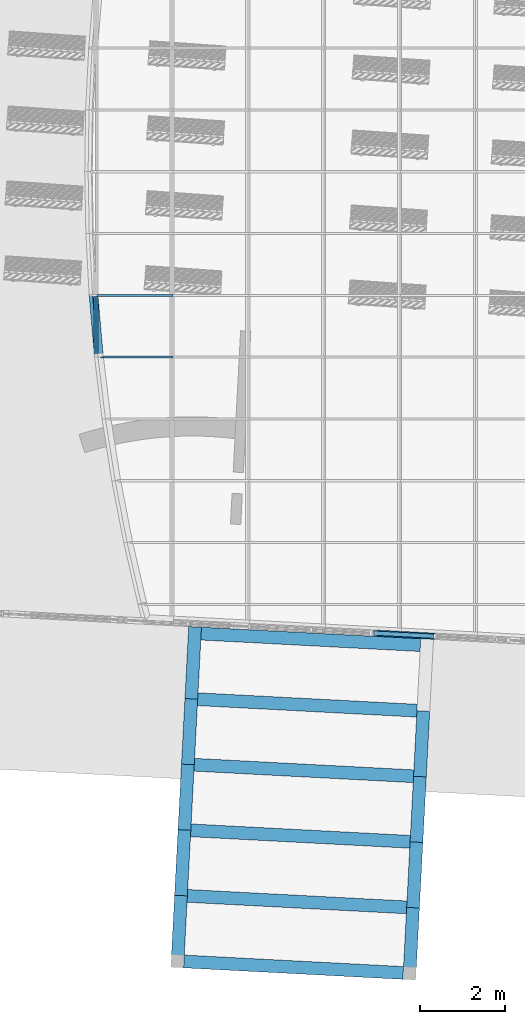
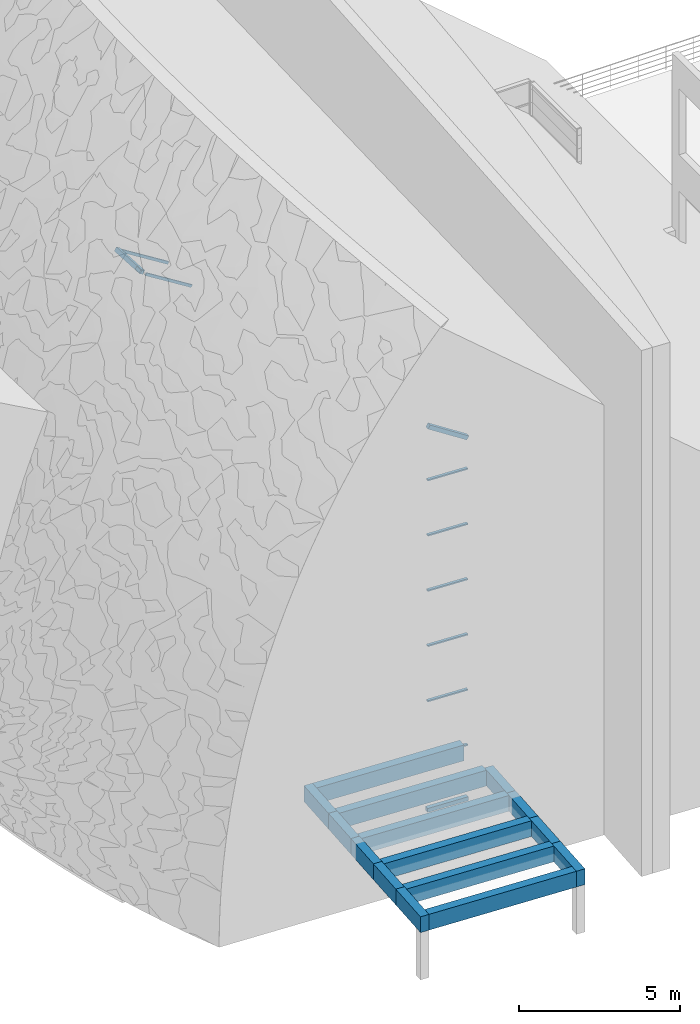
# One storey, part 3 of 82: 27 members, 2 elements without a shape of their own.
"""IFC2X3 building model written with IfcOpenShell, lengths in millimetres."""

from ifc_helpers import new_model, entity, si_unit, converted_unit, derived_unit, direction, frame, frame_2d, origin, origin_2d_with_axis, place, context, subcontext, project, spatial, polyline, rectangle, extrude, clip, halfspace, bounded_halfspace, source, transform, mapped, material, type_object, type_shapes, element, aggregate, save


model = new_model("IFC2X3")

# Units and contexts
model_context = context("Model", 3, precision=0.01, world=origin(), true_north=direction((6.12303176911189e-17, 1.0)))
body_context = subcontext(model_context, "Body", "Model", "MODEL_VIEW")
ifc_project = project(units=[si_unit("LENGTHUNIT", "METRE", prefix="MILLI"), si_unit("AREAUNIT", "SQUARE_METRE"), si_unit("VOLUMEUNIT", "CUBIC_METRE"), converted_unit("PLANEANGLEUNIT", "DEGREE", entity("IfcRatioMeasure", 0.0174532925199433), si_unit("PLANEANGLEUNIT", "RADIAN"), dimensions=[0, 0, 0, 0, 0, 0, 0]), si_unit("MASSUNIT", "GRAM", prefix="KILO"), derived_unit("MASSDENSITYUNIT", [(si_unit("MASSUNIT", "GRAM", prefix="KILO"), 1), (si_unit("LENGTHUNIT", "METRE"), -3)]), si_unit("TIMEUNIT", "SECOND"), si_unit("FREQUENCYUNIT", "HERTZ"), si_unit("THERMODYNAMICTEMPERATUREUNIT", "DEGREE_CELSIUS"), derived_unit("THERMALTRANSMITTANCEUNIT", [(si_unit("MASSUNIT", "GRAM", prefix="KILO"), 1), (si_unit("THERMODYNAMICTEMPERATUREUNIT", "KELVIN"), -1), (si_unit("TIMEUNIT", "SECOND"), -3)]), derived_unit("VOLUMETRICFLOWRATEUNIT", [(si_unit("LENGTHUNIT", "METRE"), 3), (si_unit("TIMEUNIT", "SECOND"), -1)]), si_unit("ELECTRICCURRENTUNIT", "AMPERE"), si_unit("ELECTRICVOLTAGEUNIT", "VOLT"), si_unit("POWERUNIT", "WATT"), si_unit("FORCEUNIT", "NEWTON", prefix="KILO"), si_unit("ILLUMINANCEUNIT", "LUX"), si_unit("LUMINOUSFLUXUNIT", "LUMEN"), si_unit("LUMINOUSINTENSITYUNIT", "CANDELA"), derived_unit("USERDEFINED", [(si_unit("MASSUNIT", "GRAM", prefix="KILO"), -1), (si_unit("LENGTHUNIT", "METRE"), -2), (si_unit("TIMEUNIT", "SECOND"), 3), (si_unit("LUMINOUSFLUXUNIT", "LUMEN"), 1)]), derived_unit("LINEARVELOCITYUNIT", [(si_unit("LENGTHUNIT", "METRE"), 1), (si_unit("TIMEUNIT", "SECOND"), -1)]), si_unit("PRESSUREUNIT", "PASCAL"), derived_unit("USERDEFINED", [(si_unit("LENGTHUNIT", "METRE"), -2), (si_unit("MASSUNIT", "GRAM", prefix="KILO"), 1), (si_unit("TIMEUNIT", "SECOND"), -2)])], contexts=[model_context])

# Site, building, storey
site_placement = place(None, origin())
site = spatial("IfcSite", under=ifc_project, at=site_placement, Name="表面", CompositionType="ELEMENT")
building_placement = place(site_placement, origin())
building = spatial("IfcBuilding", under=site, at=building_placement, CompositionType="ELEMENT")
storey_placement = place(building_placement, origin())
storey = spatial("IfcBuildingStorey", under=building, at=storey_placement, Name="1F", CompositionType="ELEMENT", Elevation=0.0)

# Curtain wall, members
curtain_wall_type_1 = type_object("IfcCurtainWallType", Name="幕墙系统:1450 x 2100mm", PredefinedType="NOTDEFINED")
curtain_wall_placement = place(storey_placement, origin())
curtain_wall = element("IfcCurtainWall", 1, at=curtain_wall_placement, inside=storey, type_object=curtain_wall_type_1, Name="幕墙系统:1450 x 2100mm", ObjectType="幕墙系统:1450 x 2100mm")
ifc_material_1 = material(Name="金属 - 铝")
member_type_1 = type_object("IfcMemberType", Name="50 x 100mm", PredefinedType="MEMBER")
shared_shape_1 = source(origin(), body_context, "Body", "SweptSolid", [
    extrude(rectangle(XDim=100.0, YDim=50.0, at=origin_2d_with_axis()), frame((0.0, 0.0, -1400.0), z_axis=(0.0, 0.0, 1.0), x_axis=(0.0, -1.0, 0.0)), (0.0, 0.0, 1.0), 1400.0),
])
type_shapes(member_type_1, [shared_shape_1])
member_1_placement = place(storey_placement, frame((-22681.6046437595, -28634.4332491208, 2100.0), z_axis=(0.998629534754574, -0.0523359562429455, 0.0), x_axis=(0.0, 0.0, 1.0)))
member_1 = element("IfcMember", 2, at=member_1_placement, type_object=member_type_1, material=ifc_material_1, Name="矩形竖梃:50 x 100mm", ObjectType="50 x 100mm", context=body_context, shape_type="MappedRepresentation", body=[
    mapped(shared_shape_1, transform((0.0, 0.0, 0.0), scale=1.0)),
])
placement_1 = place(building_placement, frame((0.0, 0.0, 3000.0)))
member_2_placement = place(placement_1, frame((-22681.6046437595, -28634.4332491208, 1200.0), z_axis=(0.998629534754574, -0.0523359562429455, 0.0), x_axis=(0.0, 0.0, 1.0)))
member_2 = element("IfcMember", 3, at=member_2_placement, type_object=member_type_1, material=ifc_material_1, Name="矩形竖梃:50 x 100mm", ObjectType="50 x 100mm", context=body_context, shape_type="MappedRepresentation", body=[
    mapped(shared_shape_1, transform((0.0, 0.0, 0.0), scale=1.0)),
])
placement_2 = place(building_placement, frame((0.0, 0.0, 6000.0)))
member_3_placement = place(placement_2, frame((-22681.6046437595, -28634.4332491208, 300.0), z_axis=(0.998629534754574, -0.0523359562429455, 0.0), x_axis=(0.0, 0.0, 1.0)))
member_3 = element("IfcMember", 4, at=member_3_placement, type_object=member_type_1, material=ifc_material_1, Name="矩形竖梃:50 x 100mm", ObjectType="50 x 100mm", context=body_context, shape_type="MappedRepresentation", body=[
    mapped(shared_shape_1, transform((0.0, 0.0, 0.0), scale=1.0)),
])
member_4_placement = place(placement_2, frame((-22681.6046437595, -28634.4332491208, 2400.0), z_axis=(0.998629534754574, -0.0523359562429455, 0.0), x_axis=(0.0, 0.0, 1.0)))
member_4 = element("IfcMember", 5, at=member_4_placement, type_object=member_type_1, material=ifc_material_1, Name="矩形竖梃:50 x 100mm", ObjectType="50 x 100mm", context=body_context, shape_type="MappedRepresentation", body=[
    mapped(shared_shape_1, transform((0.0, 0.0, 0.0), scale=1.0)),
])
placement_3 = place(building_placement, frame((0.0, 0.0, 9000.0)))
member_5_placement = place(placement_3, frame((-22681.6046437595, -28634.4332491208, 1500.0), z_axis=(0.998629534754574, -0.0523359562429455, 0.0), x_axis=(0.0, 0.0, 1.0)))
member_5 = element("IfcMember", 6, at=member_5_placement, type_object=member_type_1, material=ifc_material_1, Name="矩形竖梃:50 x 100mm", ObjectType="50 x 100mm", context=body_context, shape_type="MappedRepresentation", body=[
    mapped(shared_shape_1, transform((0.0, 0.0, 0.0), scale=1.0)),
])
member_6_placement = place(placement_3, frame((-22681.6046437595, -28634.4332491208, 3600.0), z_axis=(0.998629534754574, -0.0523359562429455, 0.0), x_axis=(0.0, 0.0, 1.0)))
member_6 = element("IfcMember", 7, at=member_6_placement, type_object=member_type_1, material=ifc_material_1, Name="矩形竖梃:50 x 100mm", ObjectType="50 x 100mm", context=body_context, shape_type="MappedRepresentation", body=[
    mapped(shared_shape_1, transform((0.0, 0.0, 0.0), scale=1.0)),
])
member_type_2 = type_object("IfcMemberType", Name="50 x 100mm", PredefinedType="MEMBER")
shared_shape_2 = source(origin(), body_context, "Body", "SweptSolid", [
    extrude(rectangle(XDim=100.0, YDim=50.0, at=origin_2d_with_axis()), frame((0.0, 0.0, -2100.0), z_axis=(0.0, 0.0, 1.0), x_axis=(0.0, -1.0, 0.0)), (0.0, 0.0, 1.0), 2100.0),
])
type_shapes(member_type_2, [shared_shape_2])
member_7_placement = place(placement_3, frame((-30604.5056245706, -20638.9031535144, 9820.01452635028), z_axis=(-0.848048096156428, 0.0, 0.529919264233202), x_axis=(0.0, -1.0, 0.0)))
member_7 = element("IfcMember", 8, at=member_7_placement, type_object=member_type_2, material=ifc_material_1, Name="矩形竖梃:50 x 100mm", ObjectType="50 x 100mm", context=body_context, shape_type="MappedRepresentation", body=[
    mapped(shared_shape_2, transform((0.0, 0.0, 0.0), scale=1.0)),
])
ifc_material_2 = material(Name="木质 - 木材")
member_type_3 = type_object("IfcMemberType", Name="200 x 150mm", PredefinedType="MEMBER")
shared_shape_3 = source(origin(), body_context, "Body", "SweptSolid", [
    extrude(rectangle(XDim=150.0, YDim=150.0, at=origin_2d_with_axis()), frame((-75.0, 0.0, -1425.0), z_axis=(0.0, 0.0, 1.0), x_axis=(0.0, -1.0, 0.0)), (0.0, 0.0, 1.0), 1425.0),
])
type_shapes(member_type_3, [shared_shape_3])
member_8_placement = place(storey_placement, frame((-24104.6517307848, -28559.8545114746, 0.0), z_axis=(-0.998629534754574, 0.0523359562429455, 0.0), x_axis=(0.0, 0.0, -1.0)))
member_8 = element("IfcMember", 9, at=member_8_placement, type_object=member_type_3, material=ifc_material_2, Name="矩形竖梃:200 x 150mm", ObjectType="200 x 150mm", context=body_context, shape_type="MappedRepresentation", body=[
    mapped(shared_shape_3, transform((0.0, 0.0, 0.0), scale=1.0)),
])
member_type_4 = type_object("IfcMemberType", Name="200 x 150mm", PredefinedType="MEMBER")
shared_shape_4 = source(origin(), body_context, "Body", "Clipping", [
    clip(clip(extrude(rectangle(XDim=150.0, YDim=150.0, at=frame_2d((7.105427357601e-15, 0.0), x_axis=(1.0, 0.0))), frame((-75.0, 0.0, -1380.2874593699), z_axis=(0.0, 0.0, 1.0), x_axis=(0.0, -1.0, 0.0)), (0.0, 0.0, 1.0), 1380.2874593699), halfspace(frame((0.0, -304.8, -1380.2874593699), z_axis=(-0.0100534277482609, 0.0, -0.999949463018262), x_axis=(-0.999949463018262, 0.0, 0.0100534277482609)), False)), halfspace(frame((0.0, -304.8, 0.0), z_axis=(-0.0195393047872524, 0.0, 0.999809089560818), x_axis=(-0.999809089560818, 0.0, -0.0195393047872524)), False)),
])
type_shapes(member_type_4, [shared_shape_4])
member_9_placement = place(placement_3, frame((-30722.9634590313, -20638.9031535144, 9894.0351965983), z_axis=(-0.0858211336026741, 0.99486626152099, 0.0536269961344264), x_axis=(-0.843694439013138, -0.101198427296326, 0.527198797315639)))
member_9 = element("IfcMember", 10, at=member_9_placement, type_object=member_type_4, material=ifc_material_2, Name="矩形竖梃:200 x 150mm", ObjectType="200 x 150mm", context=body_context, shape_type="MappedRepresentation", body=[
    mapped(shared_shape_4, transform((0.0, 0.0, 0.0), scale=1.0)),
])
member_type_5 = type_object("IfcMemberType", Name="50 x 100mm", PredefinedType="MEMBER")
shared_shape_5 = source(origin(), body_context, "Body", "SweptSolid", [
    extrude(rectangle(XDim=100.0, YDim=50.0, at=origin_2d_with_axis()), frame((0.0, 0.0, -1348.20142452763), z_axis=(0.0, 0.0, 1.0), x_axis=(0.0, -1.0, 0.0)), (0.0, 0.0, 1.0), 1348.20142452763),
])
type_shapes(member_type_5, [shared_shape_5])
member_10_placement = place(placement_3, frame((-30604.5056245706, -20663.9031535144, 9820.01452635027), z_axis=(0.0, 1.0, 0.0), x_axis=(-0.848048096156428, 0.0, 0.529919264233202)))
member_10 = element("IfcMember", 11, at=member_10_placement, type_object=member_type_5, material=ifc_material_1, Name="矩形竖梃:50 x 100mm", ObjectType="50 x 100mm", context=body_context, shape_type="MappedRepresentation", body=[
    mapped(shared_shape_5, transform((0.0, 0.0, 0.0), scale=1.0)),
])
member_type_6 = type_object("IfcMemberType", Name="50 x 100mm", PredefinedType="MEMBER")
shared_shape_6 = source(origin(), body_context, "Body", "Clipping", [
    clip(clip(extrude(rectangle(XDim=100.0, YDim=50.0, at=origin_2d_with_axis()), frame((0.0, 0.0, -2090.62440953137), z_axis=(0.0, 0.0, 1.0), x_axis=(0.0, -1.0, 0.0)), (0.0, 0.0, 1.0), 1942.56278077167), bounded_halfspace(frame((-19.7610123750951, 75.0, -148.701205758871), z_axis=(0.142269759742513, 0.0, 0.989827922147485), x_axis=(0.989827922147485, 0.0, -0.142269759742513)), False, frame((0.0, 0.0, -2090.62440953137), z_axis=(0.0, 0.0, 1.0), x_axis=(0.0, -1.0, 0.0)), polyline([(-50.0, 25.0), (-50.0, -19.7610123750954), (50.0, -19.7610123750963), (50.0, 25.0), (-50.0, 25.0)]))), bounded_halfspace(frame((-94.9756642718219, 75.0, -139.518981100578), z_axis=(0.12118059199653, 0.0, 0.992630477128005), x_axis=(0.992630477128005, 0.0, -0.12118059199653)), False, frame((0.0, 0.0, -2090.62440953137), z_axis=(0.0, 0.0, 1.0), x_axis=(0.0, -1.0, 0.0)), polyline([(-50.0, -19.7610123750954), (-50.0, -25.0), (50.0, -25.0), (50.0, -19.7610123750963), (-50.0, -19.7610123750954)]))),
])
type_shapes(member_type_6, [shared_shape_6])
member_11_placement = place(placement_3, frame((-30596.5546729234, -22088.9031535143, 9815.04622034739), z_axis=(-0.848048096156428, 0.0, 0.529919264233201), x_axis=(0.0, -1.0, 0.0)))
member_11 = element("IfcMember", 12, at=member_11_placement, type_object=member_type_6, material=ifc_material_1, Name="矩形竖梃:50 x 100mm", ObjectType="50 x 100mm", context=body_context, shape_type="MappedRepresentation", body=[
    mapped(shared_shape_6, transform((0.0, 0.0, 0.0), scale=1.0)),
])
member_type_7 = type_object("IfcMemberType", Name="200 x 150mm", PredefinedType="MEMBER")
shared_shape_7 = source(origin(), body_context, "Body", "SweptSolid", [
    extrude(rectangle(XDim=150.0, YDim=150.0, at=frame_2d((2.8421709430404e-14, -8.5265128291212e-14), x_axis=(1.0, 0.0))), frame((-75.0, 0.0, -1598.73277762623), z_axis=(0.0, 0.0, 1.0), x_axis=(0.0, -1.0, 0.0)), (0.0, 0.0, 1.0), 1598.73277762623),
])
type_shapes(member_type_7, [shared_shape_7])
member_12_placement = place(placement_3, frame((-22656.6389053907, -28635.7416480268, 4853.6362004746), z_axis=(0.847211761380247, -0.0444004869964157, -0.529396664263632), x_axis=(0.528671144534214, -0.0277064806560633, 0.848374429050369)))
member_12 = element("IfcMember", 13, at=member_12_placement, type_object=member_type_7, material=ifc_material_2, Name="矩形竖梃:200 x 150mm", ObjectType="200 x 150mm", context=body_context, shape_type="MappedRepresentation", body=[
    mapped(shared_shape_7, transform((0.0, 0.0, 0.0), scale=1.0)),
])
aggregate(curtain_wall, [member_9, member_10, member_11, member_7, member_8, member_12, member_1, member_2, member_3, member_4, member_5, member_6])

# Roof, members
curtain_wall_type_2 = type_object("IfcCurtainWallType", Name="玻璃斜窗:玻璃斜窗", PredefinedType="NOTDEFINED")
roof_placement = place(storey_placement, origin())
roof = element("IfcRoof", 14, at=roof_placement, inside=storey, type_object=curtain_wall_type_2, Name="玻璃斜窗:玻璃斜窗", ObjectType="玻璃斜窗:玻璃斜窗:338", ShapeType="NOTDEFINED")
ifc_material_3 = material(Name="白色涂料")
member_type_8 = type_object("IfcMemberType", Name="300x600", PredefinedType="MEMBER")
shared_shape_8 = source(origin(), body_context, "Body", "SweptSolid", [
    extrude(rectangle(XDim=600.0, YDim=300.0, at=origin_2d_with_axis()), frame((-150.0, 0.0, -5150.0), z_axis=(0.0, 0.0, 1.0), x_axis=(0.0, -1.0, 0.0)), (0.0, 0.0, 1.0), 5150.00000000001),
])
type_shapes(member_type_8, [shared_shape_8])
member_13_placement = place(storey_placement, frame((-28128.0608048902, -28424.0995027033, 2100.0), z_axis=(-0.998629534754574, 0.0523359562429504, 0.0), x_axis=(0.0523359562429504, 0.998629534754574, 0.0)))
member_13 = element("IfcMember", 15, at=member_13_placement, type_object=member_type_8, material=ifc_material_3, Name="矩形竖梃:300x600", ObjectType="300x600", context=body_context, shape_type="MappedRepresentation", body=[
    mapped(shared_shape_8, transform((0.0, 0.0, 0.0), scale=1.0)),
])
member_14_placement = place(storey_placement, frame((-23403.8063508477, -36682.6659553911, 2100.0), z_axis=(0.998629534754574, -0.0523359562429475, 0.0), x_axis=(-0.0523359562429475, -0.998629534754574, 0.0)))
member_14 = element("IfcMember", 16, at=member_14_placement, type_object=member_type_8, material=ifc_material_3, Name="矩形竖梃:300x600", ObjectType="300x600", context=body_context, shape_type="MappedRepresentation", body=[
    mapped(shared_shape_8, transform((0.0, 0.0, 0.0), scale=1.0)),
])
member_type_9 = type_object("IfcMemberType", Name="300x600", PredefinedType="MEMBER")
shared_shape_9 = source(origin(), body_context, "Body", "SweptSolid", [
    extrude(rectangle(XDim=600.0, YDim=300.0, at=origin_2d_with_axis()), frame((-150.0, 0.0, -1690.0), z_axis=(0.0, 0.0, 1.0), x_axis=(0.0, -1.0, 0.0)), (0.0, 0.0, 1.0), 1690.0),
])
type_shapes(member_type_9, [shared_shape_9])
member_15_placement = place(storey_placement, frame((-28846.3373152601, -36397.434993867, 2100.0), z_axis=(-0.0523359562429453, -0.998629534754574, 0.0), x_axis=(-0.998629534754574, 0.0523359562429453, 0.0)))
member_15 = element("IfcMember", 17, at=member_15_placement, type_object=member_type_9, material=ifc_material_3, Name="矩形竖梃:300x600", ObjectType="300x600", context=body_context, shape_type="MappedRepresentation", body=[
    mapped(shared_shape_9, transform((0.0, 0.0, 0.0), scale=1.0)),
])
member_type_10 = type_object("IfcMemberType", Name="300x600", PredefinedType="MEMBER")
shared_shape_10 = source(origin(), body_context, "Body", "SweptSolid", [
    extrude(rectangle(XDim=600.0, YDim=300.0, at=origin_2d_with_axis()), frame((-150.0, 0.0, -1540.0), z_axis=(0.0, 0.0, 1.0), x_axis=(0.0, -1.0, 0.0)), (0.0, 0.0, 1.0), 1540.0),
])
type_shapes(member_type_10, [shared_shape_10])
member_16_placement = place(storey_placement, frame((-28757.8895492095, -34709.7510801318, 2100.0), z_axis=(-0.0523359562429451, -0.998629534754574, 0.0), x_axis=(-0.998629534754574, 0.0523359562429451, 0.0)))
member_16 = element("IfcMember", 18, at=member_16_placement, type_object=member_type_10, material=ifc_material_3, Name="矩形竖梃:300x600", ObjectType="300x600", context=body_context, shape_type="MappedRepresentation", body=[
    mapped(shared_shape_10, transform((0.0, 0.0, 0.0), scale=1.0)),
])
member_17_placement = place(storey_placement, frame((-28677.2921765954, -33171.8615966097, 2100.0), z_axis=(-0.0523359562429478, -0.998629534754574, 0.0), x_axis=(-0.998629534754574, 0.0523359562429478, 0.0)))
member_17 = element("IfcMember", 19, at=member_17_placement, type_object=member_type_10, material=ifc_material_3, Name="矩形竖梃:300x600", ObjectType="300x600", context=body_context, shape_type="MappedRepresentation", body=[
    mapped(shared_shape_10, transform((0.0, 0.0, 0.0), scale=1.0)),
])
member_18_placement = place(storey_placement, frame((-28596.6948039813, -31633.9721130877, 2100.0), z_axis=(-0.0523359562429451, -0.998629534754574, 0.0), x_axis=(-0.998629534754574, 0.0523359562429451, 0.0)))
member_18 = element("IfcMember", 20, at=member_18_placement, type_object=member_type_10, material=ifc_material_3, Name="矩形竖梃:300x600", ObjectType="300x600", context=body_context, shape_type="MappedRepresentation", body=[
    mapped(shared_shape_10, transform((0.0, 0.0, 0.0), scale=1.0)),
])
member_19_placement = place(storey_placement, frame((-22935.1723517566, -33472.7933450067, 2100.0), z_axis=(0.0523359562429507, 0.998629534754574, 0.0), x_axis=(0.998629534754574, -0.0523359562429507, 0.0)))
member_19 = element("IfcMember", 21, at=member_19_placement, type_object=member_type_10, material=ifc_material_3, Name="矩形竖梃:300x600", ObjectType="300x600", context=body_context, shape_type="MappedRepresentation", body=[
    mapped(shared_shape_10, transform((0.0, 0.0, 0.0), scale=1.0)),
])
member_20_placement = place(storey_placement, frame((-22854.5749791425, -31934.9038614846, 2100.0), z_axis=(0.0523359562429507, 0.998629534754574, 0.0), x_axis=(0.998629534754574, -0.0523359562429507, 0.0)))
member_20 = element("IfcMember", 22, at=member_20_placement, type_object=member_type_10, material=ifc_material_3, Name="矩形竖梃:300x600", ObjectType="300x600", context=body_context, shape_type="MappedRepresentation", body=[
    mapped(shared_shape_10, transform((0.0, 0.0, 0.0), scale=1.0)),
])
member_21_placement = place(storey_placement, frame((-22773.9776065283, -30397.0143779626, 2100.0), z_axis=(0.0523359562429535, 0.998629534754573, 0.0), x_axis=(0.998629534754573, -0.0523359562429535, 0.0)))
member_21 = element("IfcMember", 23, at=member_21_placement, type_object=member_type_10, material=ifc_material_3, Name="矩形竖梃:300x600", ObjectType="300x600", context=body_context, shape_type="MappedRepresentation", body=[
    mapped(shared_shape_10, transform((0.0, 0.0, 0.0), scale=1.0)),
])
member_type_11 = type_object("IfcMemberType", Name="300x600", PredefinedType="MEMBER")
shared_shape_11 = source(origin(), body_context, "Body", "SweptSolid", [
    extrude(rectangle(XDim=600.0, YDim=300.0, at=origin_2d_with_axis()), frame((-150.0, 0.0, -1690.0), z_axis=(0.0, 0.0, 1.0), x_axis=(0.0, -1.0, 0.0)), (0.0, 0.0, 1.0), 1690.0),
])
type_shapes(member_type_11, [shared_shape_11])
member_22_placement = place(storey_placement, frame((-28516.0974313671, -30096.0826295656, 2100.0), z_axis=(-0.0523359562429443, -0.998629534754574, 0.0), x_axis=(-0.998629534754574, 0.0523359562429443, 0.0)))
member_22 = element("IfcMember", 24, at=member_22_placement, type_object=member_type_11, material=ifc_material_3, Name="矩形竖梃:300x600", ObjectType="300x600", context=body_context, shape_type="MappedRepresentation", body=[
    mapped(shared_shape_11, transform((0.0, 0.0, 0.0), scale=1.0)),
])
member_23_placement = place(storey_placement, frame((-23015.7697243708, -35010.6828285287, 2100.0), z_axis=(0.0523359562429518, 0.998629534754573, 0.0), x_axis=(0.998629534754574, -0.0523359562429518, 0.0)))
member_23 = element("IfcMember", 25, at=member_23_placement, type_object=member_type_11, material=ifc_material_3, Name="矩形竖梃:300x600", ObjectType="300x600", context=body_context, shape_type="MappedRepresentation", body=[
    mapped(shared_shape_11, transform((0.0, 0.0, 0.0), scale=1.0)),
])
member_type_12 = type_object("IfcMemberType", Name="300x600", PredefinedType="MEMBER")
shared_shape_12 = source(origin(), body_context, "Body", "SweptSolid", [
    extrude(rectangle(XDim=600.0, YDim=300.0, at=origin_2d_with_axis()), frame((0.0, 0.0, -5150.0), z_axis=(0.0, 0.0, 1.0), x_axis=(0.0, -1.0, 0.0)), (0.0, 0.0, 1.0), 5149.99999999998),
])
type_shapes(member_type_12, [shared_shape_12])
member_24_placement = place(storey_placement, frame((-28458.3006887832, -34725.4518670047, 2100.0), z_axis=(-0.998629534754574, 0.0523359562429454, 0.0), x_axis=(0.0523359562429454, 0.998629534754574, 0.0)))
member_24 = element("IfcMember", 26, at=member_24_placement, type_object=member_type_12, material=ifc_material_3, Name="矩形竖梃:300x600", ObjectType="300x600", context=body_context, shape_type="MappedRepresentation", body=[
    mapped(shared_shape_12, transform((0.0, 0.0, 0.0), scale=1.0)),
])
member_25_placement = place(storey_placement, frame((-28377.703316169, -33187.5623834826, 2100.0), z_axis=(-0.998629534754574, 0.0523359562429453, 0.0), x_axis=(0.0523359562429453, 0.998629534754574, 0.0)))
member_25 = element("IfcMember", 27, at=member_25_placement, type_object=member_type_12, material=ifc_material_3, Name="矩形竖梃:300x600", ObjectType="300x600", context=body_context, shape_type="MappedRepresentation", body=[
    mapped(shared_shape_12, transform((0.0, 0.0, 0.0), scale=1.0)),
])
member_26_placement = place(storey_placement, frame((-28297.1059435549, -31649.6728999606, 2100.0), z_axis=(-0.998629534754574, 0.0523359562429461, 0.0), x_axis=(0.0523359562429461, 0.998629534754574, 0.0)))
member_26 = element("IfcMember", 28, at=member_26_placement, type_object=member_type_12, material=ifc_material_3, Name="矩形竖梃:300x600", ObjectType="300x600", context=body_context, shape_type="MappedRepresentation", body=[
    mapped(shared_shape_12, transform((0.0, 0.0, 0.0), scale=1.0)),
])
member_27_placement = place(storey_placement, frame((-28216.5085709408, -30111.7834164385, 2100.0), z_axis=(-0.998629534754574, 0.0523359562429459, 0.0), x_axis=(0.0523359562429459, 0.998629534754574, 0.0)))
member_27 = element("IfcMember", 29, at=member_27_placement, type_object=member_type_12, material=ifc_material_3, Name="矩形竖梃:300x600", ObjectType="300x600", context=body_context, shape_type="MappedRepresentation", body=[
    mapped(shared_shape_12, transform((0.0, 0.0, 0.0), scale=1.0)),
])
aggregate(roof, [member_13, member_15, member_14, member_16, member_17, member_18, member_22, member_23, member_19, member_20, member_21, member_24, member_25, member_26, member_27])

save(model, "model.ifc")
